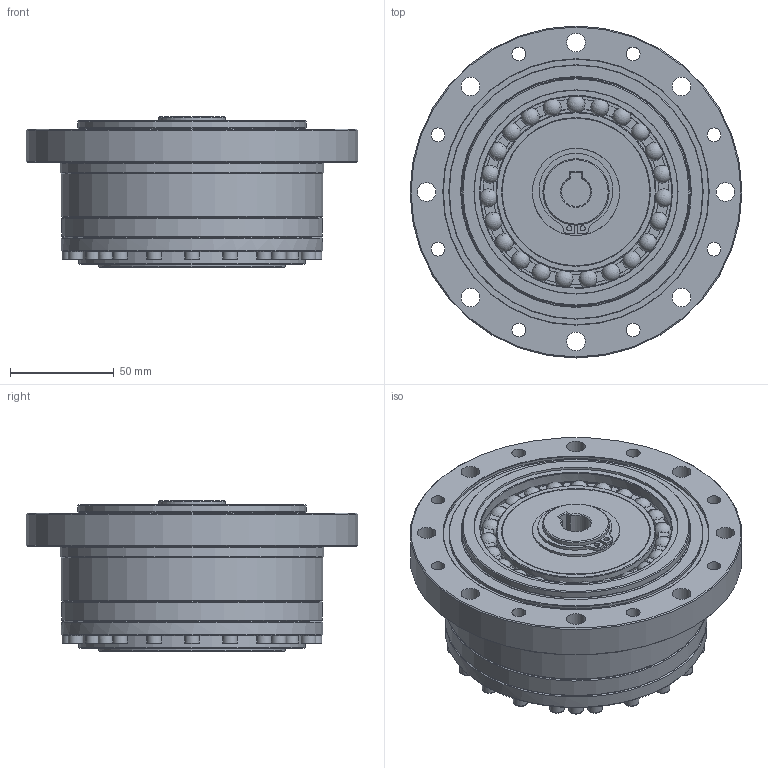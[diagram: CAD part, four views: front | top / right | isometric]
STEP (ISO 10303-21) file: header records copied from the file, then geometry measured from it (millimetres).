
FILE_DESCRIPTION(/* description */ (''),/* implementation_level */ '2;1');
FILE_NAME(/* name */ 'S:\TB00F\研發課二組\機密級\1.\X2\8A2D8A08\X0\\01-DT\DT圖面-y\2.組合圖\\X2\6E1B901F6A5F7D4454085716\X0\\WUT-A-40\AK000DY1\AK000DY1.stp',/* time_stamp */ '2022-09-29T10:53:59+08:00',/* author */ ('yin210'),/* organization */ (''),/* preprocessor_version */ 'ST-DEVELOPER v15.2',/* originating_system */ 'Autodesk Inventor 2014',/* authorisation */ '');
FILE_SCHEMA (('AUTOMOTIVE_DESIGN { 1 0 10303 214 3 1 1 }'));
Length unit declared in the file: centimetre
Products named in the file (1): AK000DY1
Bounding box: 160 x 160 x 72.5 mm (x, y, z)
Volume: 718510.2 mm3; surface area: 157085.8 mm2
Topology: 4 solids, 17 shells, 1049 faces, 2772 edges, 1745 vertices
Faces by surface type: plane 520, cylinder 219, torus 146, cone 141, sphere 23
Full cylindrical faces by diameter (mm): 2.5 x2, 4.6 x4, 5 x8, 6.647 x8, 7 x24, 8.376 x16, 9 x8, 10 x8, 11 x8, 16 x8, 24 x2, 30.3 x1, 32 x5, 32.1 x1, 32.5 x1, 32.6 x1, 34 x1, 42 x1, 66 x1, 67 x2, 71.12 x1, 76.96 x2, 79.96 x1, 80.8 x1, 84 x1, 86 x1, 89.35 x1, 90 x1, 92.35 x2, 97.97 x1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
Entity records: 31666 total; most frequent: CARTESIAN_POINT 7208, DIRECTION 4864, ORIENTED_EDGE 4594, EDGE_CURVE 2249, AXIS2_PLACEMENT_3D 1961, VERTEX_POINT 1559, EDGE_LOOP 1524, ADVANCED_FACE 1049
